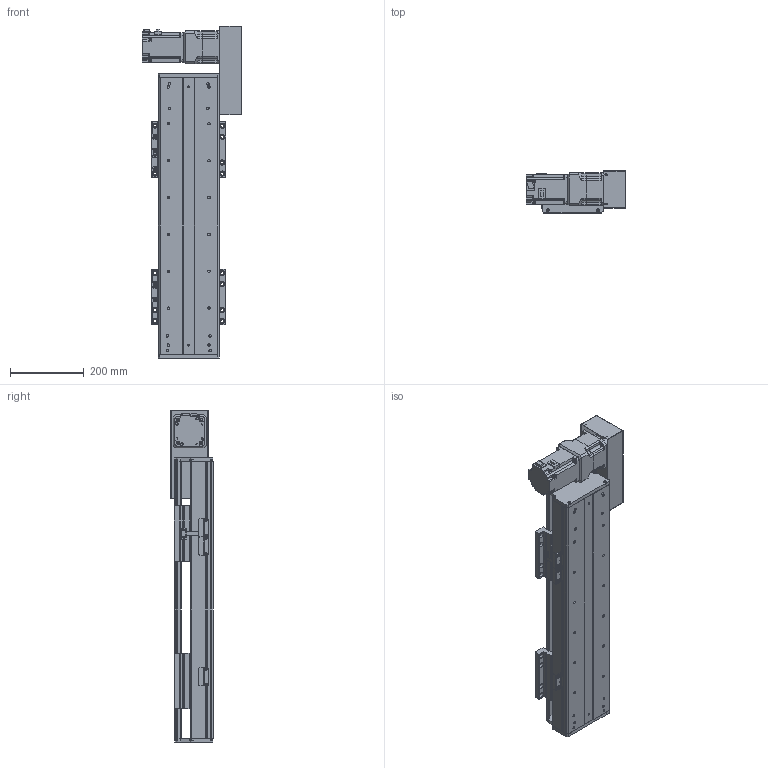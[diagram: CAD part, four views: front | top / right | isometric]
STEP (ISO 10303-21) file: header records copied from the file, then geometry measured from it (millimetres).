
FILE_DESCRIPTION(/* description */ (''),/* implementation_level */ '2;1');
FILE_NAME(/* name */ 'C:\Users\PC\Desktop\3D도면\STEP\DSB165-R7G-W0400-L.stp',/* time_stamp */ '2018-06-25T14:36:26+09:00',/* author */ ('PC'),/* organization */ (''),/* preprocessor_version */ 'ST-DEVELOPER v16.5',/* originating_system */ 'Autodesk Inventor 2017',/* authorisation */ '');
FILE_SCHEMA (('AUTOMOTIVE_DESIGN { 1 0 10303 214 3 1 1 }'));
Length unit declared in the file: millimetre
Products named in the file (12): DSB165-L7G-W0400-R_MIR; DSB165-BASE-L_MIR; hg-kr73__MIR; ab0901-p0401300102_MIR; 11-DSB165 BELT COVER_MIR; 12-DSB165-REAR COVER_MIR; 14-DSB165-FRONT COVER_MIR; DSB165-UP COVER_MIR; DSB165-TABLE(MSB20S)_MIR; DSR165-SENSOR DOG_MIR; pm-y65_step_MIR; SENSOR BRACKET(EE-SX674A)_MIR
Assembly tree (16 placements, depth 2):
  DSB165-L7G-W0400-R_MIR
    DSB165-BASE-L_MIR
    hg-kr73__MIR
    ab0901-p0401300102_MIR
    11-DSB165 BELT COVER_MIR
    12-DSB165-REAR COVER_MIR
    14-DSB165-FRONT COVER_MIR
    DSB165-UP COVER_MIR
    DSB165-TABLE(MSB20S)_MIR  x2
    DSR165-SENSOR DOG_MIR
    pm-y65_step_MIR  x3
    SENSOR BRACKET(EE-SX674A)_MIR  x3
Bounding box: 270 x 115 x 900 mm (x, y, z)
Volume: 6125301.1 mm3; surface area: 1400956 mm2
Topology: 17 solids, 17 shells, 1637 faces, 4406 edges, 2908 vertices
Faces by surface type: plane 921, cylinder 604, cone 100, sphere 8, torus 4
Full cylindrical faces by diameter (mm): 2.459 x20, 3.5 x6, 4.134 x38, 4.5 x18, 5 x27, 5.5 x36, 5.9 x4, 6 x4, 6.6 x14, 6.647 x32, 6.8 x1, 7 x4, 7.6 x4, 8.4 x1, 8.5 x24, 8.7 x1, 9.5 x32, 11 x6, 14 x16, 19 x1, 22 x1, 24 x1, 25 x1, 28 x1, 67 x1, 70 x2, 80 x1
Entity records: 35500 total; most frequent: DIRECTION 6138, CARTESIAN_POINT 5979, ORIENTED_EDGE 5474, EDGE_CURVE 2737, AXIS2_PLACEMENT_3D 2239, VERTEX_POINT 1942, EDGE_LOOP 1671, LINE 1660
